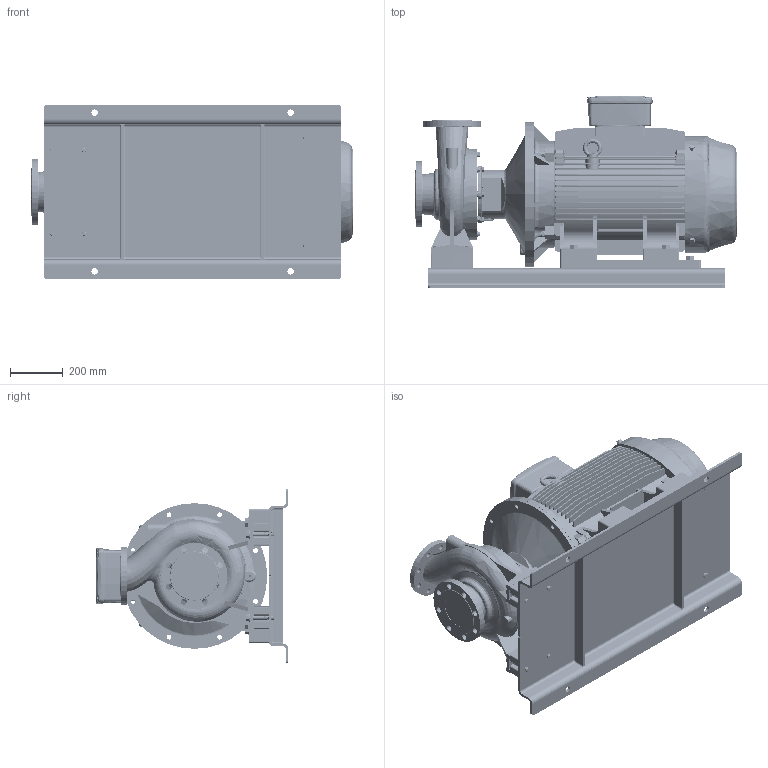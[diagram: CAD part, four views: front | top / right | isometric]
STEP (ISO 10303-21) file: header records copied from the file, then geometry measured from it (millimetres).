
FILE_DESCRIPTION (( 'STEP AP214' ), '1' );
FILE_NAME ('GSD2 100-250_55 & 75_(250SM)_W21_BP.STEP', '2024-08-02T00:37:05', ( '' ), ( '' ), 'SwSTEP 2.0', 'SolidWorks 2019', '' );
FILE_SCHEMA (( 'AUTOMOTIVE_DESIGN' ));
Length unit declared in the file: millimetre
Products named in the file (20): 100x30 - CGSDA-5291; Parametric bolt and washer_SFT-A377B; Parametric bolt and washer_SFT-A417B; Parametric Flat Washer_M16; 100-250-250S_M_______; CGS11-5321_2_3_4_5_CGS11-5324; Parametric bolt_SFT-A377B; N8S3 GSDA-838 F1-1832962-00; 250S_M2P IE3_W21T_B35; Parametric bolt_SFT-A417B; A407B Bolt_407; GSD2  100-250_55 & 75_(250SM)_W21_BP; CGS11-5321_2_3_4_5_CGS11-5322; Parametric Flat Washer_M20
Assembly tree (37 placements, depth 3):
  GSD2  100-250_55 & 75_(250SM)_W21_BP
    100-250-250S_M_______
    250S_M2P IE3_W21T_B35
    CGS11-5321_2_3_4_5_CGS11-5322  x2
    CGS11-5321_2_3_4_5_CGS11-5324  x2
    N8S3 GSDA-838 F1-1832962-00
    100x30 - CGSDA-5291  x2
    A407B Bolt_407  x2
    Parametric Flat Washer_M20  x2
    Parametric bolt and washer_SFT-A417B
      Parametric bolt_SFT-A417B
      Parametric Flat Washer_M20
    Parametric bolt and washer_SFT-A417B
      Parametric bolt_SFT-A417B
      Parametric Flat Washer_M20
    Parametric bolt and washer_SFT-A417B
      Parametric bolt_SFT-A417B
      Parametric Flat Washer_M20
    Parametric bolt and washer_SFT-A417B
      Parametric bolt_SFT-A417B
      Parametric Flat Washer_M20
    Parametric bolt and washer_SFT-A377B
      Parametric bolt_SFT-A377B
      Parametric Flat Washer_M16
    Parametric bolt and washer_SFT-A377B
      Parametric bolt_SFT-A377B
      Parametric Flat Washer_M16
    Parametric bolt and washer_SFT-A377B
      Parametric bolt_SFT-A377B
      Parametric Flat Washer_M16
    Parametric bolt and washer_SFT-A377B
      Parametric bolt_SFT-A377B
      Parametric Flat Washer_M16
Bounding box: 1215.5 x 728 x 660 mm (x, y, z)
Volume: 155777696.4 mm3; surface area: 7445800.1 mm2
Topology: 30 solids, 35 shells, 4250 faces, 11245 edges, 7186 vertices
Faces by surface type: plane 1669, cylinder 1485, cone 474, bspline 316, torus 290, sphere 16
Entity records: 177164 total; most frequent: CARTESIAN_POINT 89065, ORIENTED_EDGE 19302, DIRECTION 17371, EDGE_CURVE 9651, AXIS2_PLACEMENT_3D 6369, VERTEX_POINT 6151, VECTOR 4633, LINE 4633
